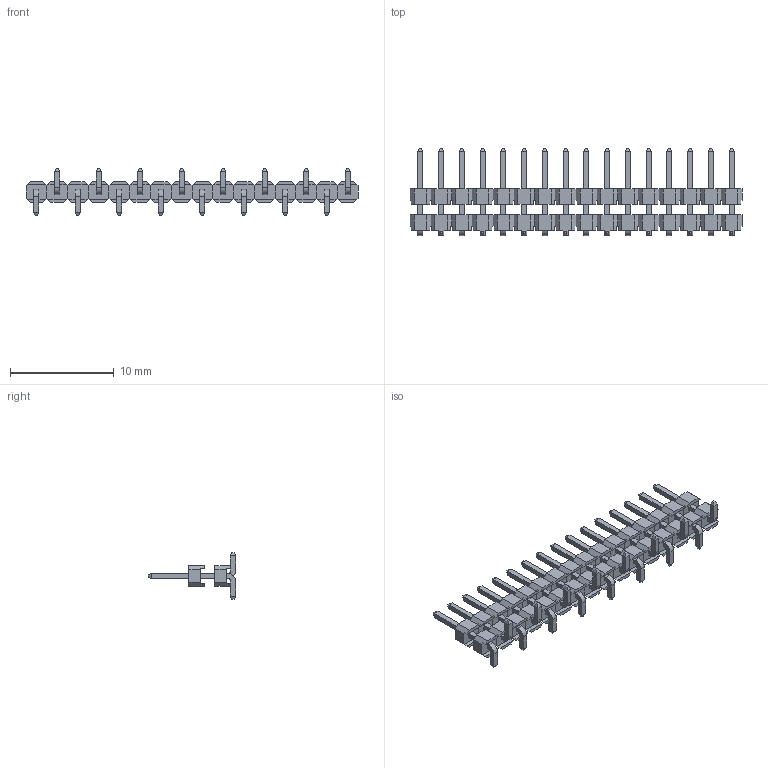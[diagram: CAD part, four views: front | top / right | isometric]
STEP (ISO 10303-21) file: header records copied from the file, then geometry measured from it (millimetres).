
FILE_DESCRIPTION(/* description */ (''),/* implementation_level */ '2;1');
FILE_NAME(/* name */ 'PZ200-1-16-S-C4.0-XX-X-DP(L8.4)-2(2.00 单排 排针 双塑 贴片-HCTL).stp',/* time_stamp */ '2026-10-23T09:38:15+08:00',/* author */ (''),/* organization */ (''),/* preprocessor_version */ 'ST-DEVELOPER v16',/* originating_system */ 'SIEMENS PLM Software NX 10.0',/* authorisation */ '');
FILE_SCHEMA (('AUTOMOTIVE_DESIGN { 1 0 10303 214 3 1 1 1 }'));
Length unit declared in the file: millimetre
Products named in the file (1): PZ200-1-N-S-C4.0-XX-X-DP(L8.4)-2(2.00 单排 排针 
双塑 贴片-HCTL) 
Bounding box: 32 x 8.4 x 4.5 mm (x, y, z)
Volume: 171.9 mm3; surface area: 815.2 mm2
Topology: 16 solids, 16 shells, 896 faces, 2304 edges, 1472 vertices
Faces by surface type: plane 864, cylinder 32
Entity records: 29624 total; most frequent: CARTESIAN_POINT 4673, ORIENTED_EDGE 4608, DIRECTION 4162, EDGE_CURVE 2304, LINE 2240, VECTOR 2240, VERTEX_POINT 1472, AXIS2_PLACEMENT_3D 961
